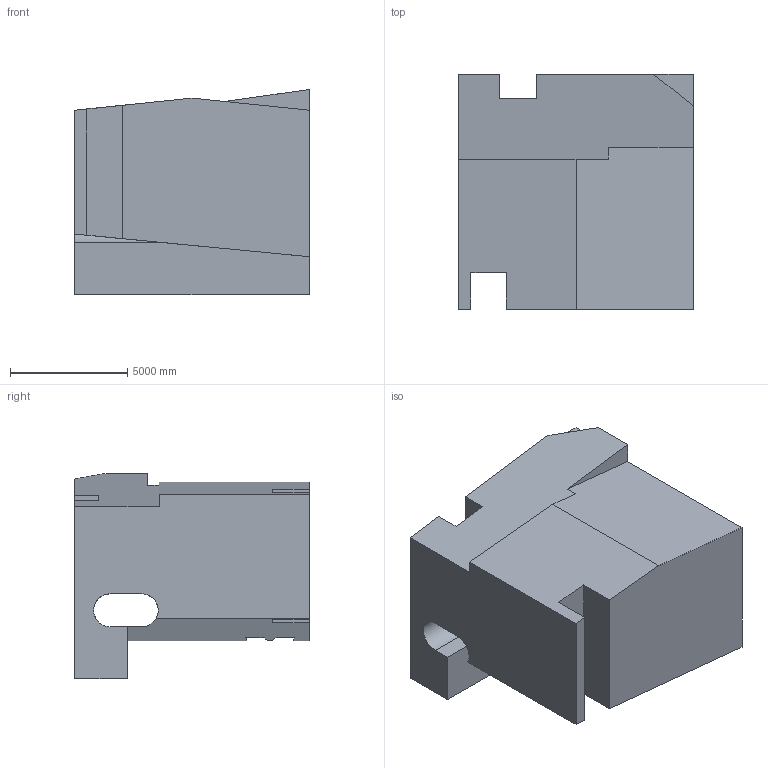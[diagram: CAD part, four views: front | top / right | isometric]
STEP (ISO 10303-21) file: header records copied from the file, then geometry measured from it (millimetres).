
FILE_DESCRIPTION (( 'STEP AP203' ), '1' );
FILE_NAME ('1848.STEP', '2022-08-19T13:30:19', ( 'user' ), ( '' ), 'SwSTEP 2.0', 'SolidWorks 2021', '' );
FILE_SCHEMA (( 'CONFIG_CONTROL_DESIGN' ));
Length unit declared in the file: centimetre
Products named in the file (1): 1848
Bounding box: 10000 x 10000 x 8736.49 mm (x, y, z)
Volume: 570612459844.8 mm3; surface area: 595181501.2 mm2
Topology: 1 solids, 1 shells, 43 faces, 129 edges, 86 vertices
Faces by surface type: plane 33, cylinder 10
Entity records: 1790 total; most frequent: CARTESIAN_POINT 542, ORIENTED_EDGE 258, DIRECTION 231, EDGE_CURVE 129, VECTOR 95, LINE 95, VERTEX_POINT 86, AXIS2_PLACEMENT_3D 68
